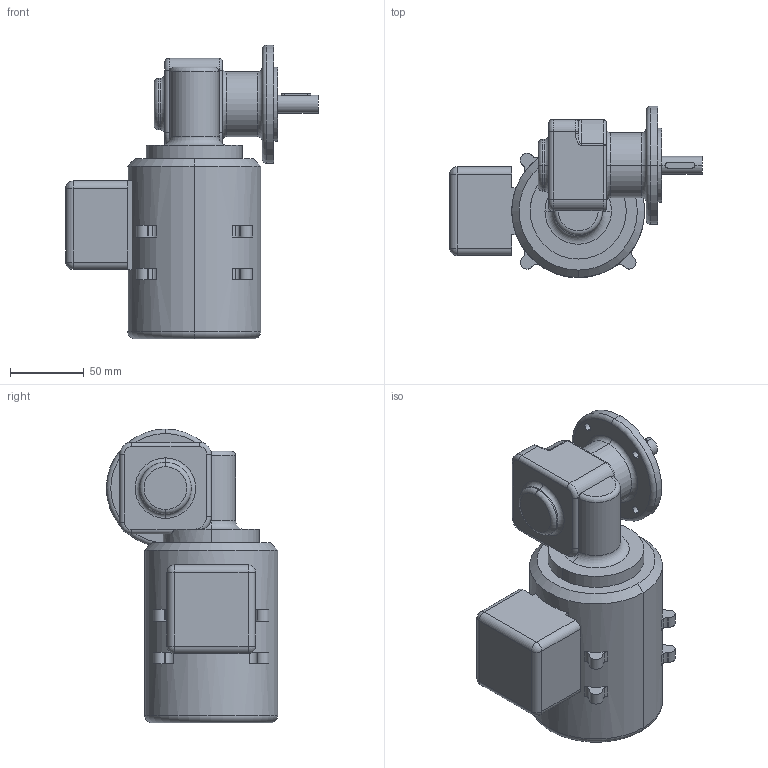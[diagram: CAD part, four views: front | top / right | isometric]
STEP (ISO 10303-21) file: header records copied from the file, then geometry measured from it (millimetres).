
FILE_DESCRIPTION (( 'STEP AP203' ), '1' );
FILE_NAME ('SN5FR-45W-D.STEP', '2007-09-13T06:17:54', ( ' ' ), ( ' ' ), 'SwSTEP 2.0', 'SolidWorks 2006233', '' );
FILE_SCHEMA (( 'CONFIG_CONTROL_DESIGN' ));
Length unit declared in the file: millimetre
Products named in the file (3): SN5FR_Standard; SRF45Wof_Standard; SN5FR-45W-D
Assembly tree (2 placements, depth 2):
  SN5FR-45W-D
    SN5FR_Standard
    SRF45Wof_Standard
Bounding box: 171 x 116 x 199 mm (x, y, z)
Volume: 1215752.4 mm3; surface area: 97601 mm2
Topology: 2 solids, 2 shells, 198 faces, 478 edges, 292 vertices
Faces by surface type: cylinder 91, plane 63, torus 30, sphere 8, bspline 4, cone 2
Entity records: 6576 total; most frequent: CARTESIAN_POINT 1527, DIRECTION 1093, ORIENTED_EDGE 944, EDGE_CURVE 472, AXIS2_PLACEMENT_3D 446, VERTEX_POINT 292, CIRCLE 247, EDGE_LOOP 220
